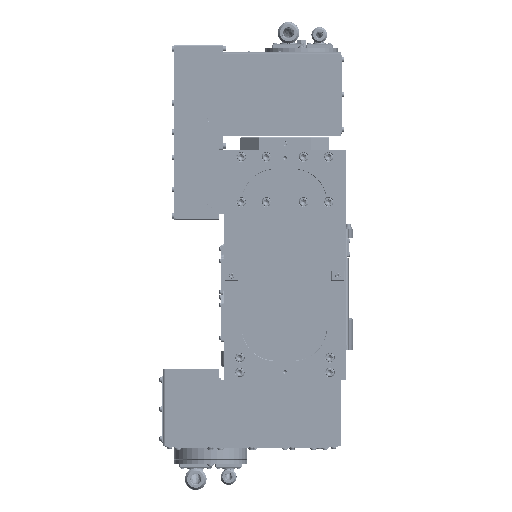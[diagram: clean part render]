
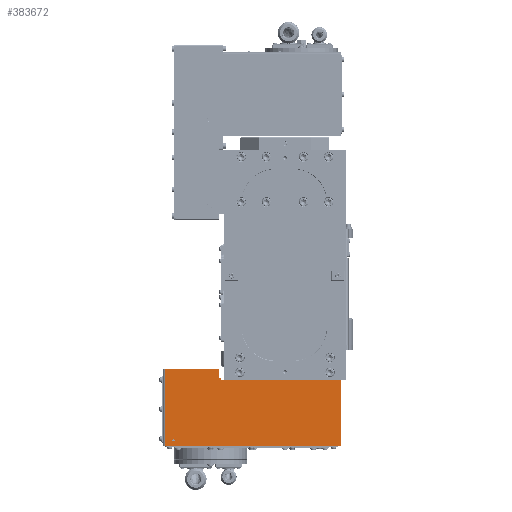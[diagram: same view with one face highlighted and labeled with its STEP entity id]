
A CAD part, front view. The second image highlights one B-rep face of the part: STEP entity #383672.
In plain terms, the highlighted planar face has unit normal (0, -1, 0).
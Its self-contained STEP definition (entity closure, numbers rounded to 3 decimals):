
#1125 = VECTOR ( 'NONE', #101246, 1000. ) ;
#2655 = VERTEX_POINT ( 'NONE', #361136 ) ;
#10159 = VERTEX_POINT ( 'NONE', #387042 ) ;
#12540 = CARTESIAN_POINT ( 'NONE',  ( 124., -176., 105. ) ) ;
#22306 = DIRECTION ( 'NONE',  ( 0., -1., 0. ) ) ;
#24365 = CARTESIAN_POINT ( 'NONE',  ( -3., -176., -125. ) ) ;
#27682 = CIRCLE ( 'NONE', #306747, 2.1 ) ;
#29184 = ORIENTED_EDGE ( 'NONE', *, *, #117403, .T. ) ;
#30327 = VERTEX_POINT ( 'NONE', #65692 ) ;
#32267 = CIRCLE ( 'NONE', #134252, 2. ) ;
#40611 = ORIENTED_EDGE ( 'NONE', *, *, #267159, .T. ) ;
#41769 = CARTESIAN_POINT ( 'NONE',  ( -21., -176., -127. ) ) ;
#42980 = CARTESIAN_POINT ( 'NONE',  ( -21., -176., -225. ) ) ;
#46235 = ORIENTED_EDGE ( 'NONE', *, *, #99806, .F. ) ;
#48769 = ORIENTED_EDGE ( 'NONE', *, *, #77827, .T. ) ;
#54288 = FACE_BOUND ( 'NONE', #236770, .T. ) ;
#56801 = VERTEX_POINT ( 'NONE', #389031 ) ;
#57062 = VECTOR ( 'NONE', #170984, 1000. ) ;
#65692 = CARTESIAN_POINT ( 'NONE',  ( 114., -176., -212.1 ) ) ;
#65917 = DIRECTION ( 'NONE',  ( 0., 0., -1. ) ) ;
#76545 = LINE ( 'NONE', #12540, #356861 ) ;
#77737 = CARTESIAN_POINT ( 'NONE',  ( 114., -176., -207.9 ) ) ;
#77827 = EDGE_CURVE ( 'NONE', #10159, #155353, #288389, .T. ) ;
#84196 = CARTESIAN_POINT ( 'NONE',  ( -21., -176., 105. ) ) ;
#99806 = EDGE_CURVE ( 'NONE', #56801, #155353, #76545, .T. ) ;
#100044 = CARTESIAN_POINT ( 'NONE',  ( -21., -176., 105. ) ) ;
#101246 = DIRECTION ( 'NONE',  ( 0., 0., 1. ) ) ;
#107221 = CARTESIAN_POINT ( 'NONE',  ( 359.981, -176., -120. ) ) ;
#110740 = DIRECTION ( 'NONE',  ( 0., 0., -1. ) ) ;
#115495 = DIRECTION ( 'NONE',  ( 0., 0., -1. ) ) ;
#117403 = EDGE_CURVE ( 'NONE', #333195, #260062, #32267, .T. ) ;
#123764 = CARTESIAN_POINT ( 'NONE',  ( 114., -176., -210. ) ) ;
#124186 = VECTOR ( 'NONE', #314838, 1000. ) ;
#125014 = ORIENTED_EDGE ( 'NONE', *, *, #367114, .T. ) ;
#134252 = AXIS2_PLACEMENT_3D ( 'NONE', #394759, #326652, #392661 ) ;
#136565 = ORIENTED_EDGE ( 'NONE', *, *, #406807, .F. ) ;
#149946 = CARTESIAN_POINT ( 'NONE',  ( 0., -176., 105. ) ) ;
#155353 = VERTEX_POINT ( 'NONE', #358523 ) ;
#163224 = DIRECTION ( 'NONE',  ( 1., 0., 0. ) ) ;
#167459 = LINE ( 'NONE', #231339, #240258 ) ;
#170984 = DIRECTION ( 'NONE',  ( 1., 0., 0. ) ) ;
#175161 = ORIENTED_EDGE ( 'NONE', *, *, #325167, .F. ) ;
#177316 = DIRECTION ( 'NONE',  ( 0., -1., 0. ) ) ;
#186732 = ORIENTED_EDGE ( 'NONE', *, *, #320996, .F. ) ;
#201484 = DIRECTION ( 'NONE',  ( 0., 0., -1. ) ) ;
#211133 = VECTOR ( 'NONE', #237129, 1000. ) ;
#214651 = CARTESIAN_POINT ( 'NONE',  ( 6., -176., -125. ) ) ;
#216272 = PLANE ( 'NONE',  #308571 ) ;
#226870 = CIRCLE ( 'NONE', #308431, 2.1 ) ;
#229081 = LINE ( 'NONE', #295149, #1125 ) ;
#231339 = CARTESIAN_POINT ( 'NONE',  ( -3., -176., -125. ) ) ;
#236770 = EDGE_LOOP ( 'NONE', ( #136565, #186732 ) ) ;
#237129 = DIRECTION ( 'NONE',  ( -1., 0., 0. ) ) ;
#239110 = EDGE_LOOP ( 'NONE', ( #175161, #330293, #289780, #125014, #336125, #29184, #40611, #48769, #46235 ) ) ;
#240258 = VECTOR ( 'NONE', #201484, 1000. ) ;
#241260 = CARTESIAN_POINT ( 'NONE',  ( 114., -176., -210. ) ) ;
#248263 = FACE_OUTER_BOUND ( 'NONE', #239110, .T. ) ;
#252631 = EDGE_CURVE ( 'NONE', #258179, #333195, #376655, .T. ) ;
#258179 = VERTEX_POINT ( 'NONE', #24365 ) ;
#260062 = VERTEX_POINT ( 'NONE', #41769 ) ;
#261383 = VECTOR ( 'NONE', #163224, 1000. ) ;
#263746 = EDGE_CURVE ( 'NONE', #2655, #364292, #399066, .T. ) ;
#267159 = EDGE_CURVE ( 'NONE', #260062, #10159, #332255, .T. ) ;
#282354 = DIRECTION ( 'NONE',  ( 0., 0., -1. ) ) ;
#287804 = DIRECTION ( 'NONE',  ( 0., -1., 0. ) ) ;
#288389 = LINE ( 'NONE', #42980, #57062 ) ;
#289075 = EDGE_CURVE ( 'NONE', #2655, #338313, #229081, .T. ) ;
#289780 = ORIENTED_EDGE ( 'NONE', *, *, #263746, .T. ) ;
#291069 = LINE ( 'NONE', #389050, #261383 ) ;
#295149 = CARTESIAN_POINT ( 'NONE',  ( 0., -176., -120. ) ) ;
#306747 = AXIS2_PLACEMENT_3D ( 'NONE', #123764, #287804, #417725 ) ;
#308431 = AXIS2_PLACEMENT_3D ( 'NONE', #241260, #177316, #115495 ) ;
#308571 = AXIS2_PLACEMENT_3D ( 'NONE', #84196, #22306, #282354 ) ;
#314838 = DIRECTION ( 'NONE',  ( -1., 0., 0. ) ) ;
#320996 = EDGE_CURVE ( 'NONE', #367286, #30327, #27682, .T. ) ;
#325167 = EDGE_CURVE ( 'NONE', #338313, #56801, #291069, .T. ) ;
#326652 = DIRECTION ( 'NONE',  ( 0., -1., 0. ) ) ;
#330293 = ORIENTED_EDGE ( 'NONE', *, *, #289075, .F. ) ;
#332255 = LINE ( 'NONE', #100044, #410069 ) ;
#333195 = VERTEX_POINT ( 'NONE', #334280 ) ;
#334280 = CARTESIAN_POINT ( 'NONE',  ( -19., -176., -125. ) ) ;
#336125 = ORIENTED_EDGE ( 'NONE', *, *, #252631, .T. ) ;
#338313 = VERTEX_POINT ( 'NONE', #149946 ) ;
#354704 = CARTESIAN_POINT ( 'NONE',  ( -3., -176., -120. ) ) ;
#356861 = VECTOR ( 'NONE', #110740, 1000. ) ;
#358523 = CARTESIAN_POINT ( 'NONE',  ( 124., -176., -225. ) ) ;
#361136 = CARTESIAN_POINT ( 'NONE',  ( 0., -176., -120. ) ) ;
#364292 = VERTEX_POINT ( 'NONE', #354704 ) ;
#367114 = EDGE_CURVE ( 'NONE', #364292, #258179, #167459, .T. ) ;
#367286 = VERTEX_POINT ( 'NONE', #77737 ) ;
#376655 = LINE ( 'NONE', #214651, #124186 ) ;
#383672 = ADVANCED_FACE ( 'NONE', ( #248263, #54288 ), #216272, .T. ) ;
#387042 = CARTESIAN_POINT ( 'NONE',  ( -21., -176., -225. ) ) ;
#389031 = CARTESIAN_POINT ( 'NONE',  ( 124., -176., 105. ) ) ;
#389050 = CARTESIAN_POINT ( 'NONE',  ( -21., -176., 105. ) ) ;
#392661 = DIRECTION ( 'NONE',  ( 0., 0., -1. ) ) ;
#394759 = CARTESIAN_POINT ( 'NONE',  ( -19., -176., -127. ) ) ;
#399066 = LINE ( 'NONE', #107221, #211133 ) ;
#406807 = EDGE_CURVE ( 'NONE', #30327, #367286, #226870, .T. ) ;
#410069 = VECTOR ( 'NONE', #65917, 1000. ) ;
#417725 = DIRECTION ( 'NONE',  ( 0., 0., -1. ) ) ;
